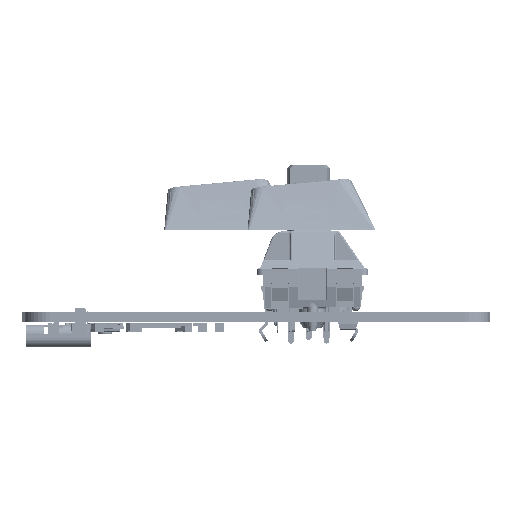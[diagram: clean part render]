
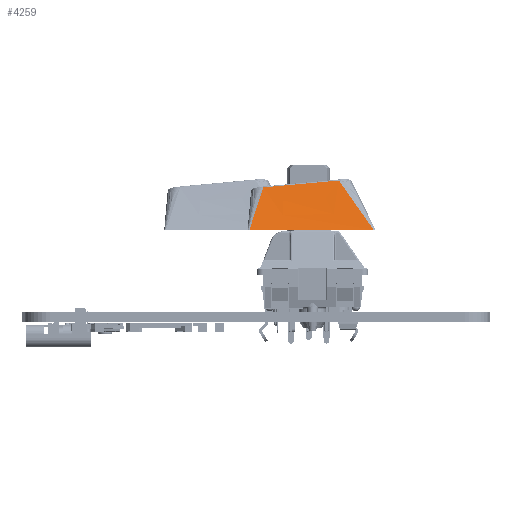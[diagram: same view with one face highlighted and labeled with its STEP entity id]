
A CAD part, left-side view. The second image highlights one B-rep face of the part: STEP entity #4259.
In plain terms, the highlighted free-form (B-spline) face has degree [3, 3] with [4, 4] control points.
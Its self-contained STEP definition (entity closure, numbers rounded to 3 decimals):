
#3462 = EDGE_CURVE('',#3463,#3465,#3467,.T.);
#3463 = VERTEX_POINT('',#3464);
#3464 = CARTESIAN_POINT('',(-0.25,139.158,0.));
#3465 = VERTEX_POINT('',#3466);
#3466 = CARTESIAN_POINT('',(-0.25,121.658,0.));
#3467 = LINE('',#3468,#3469);
#3468 = CARTESIAN_POINT('',(-0.25,121.658,0.)
  );
#3469 = VECTOR('',#3470,1.);
#3470 = DIRECTION('',(0.,-1.,0.));
#3902 = VERTEX_POINT('',#3903);
#3903 = CARTESIAN_POINT('',(2.673,126.557,6.955
    ));
#3972 = VERTEX_POINT('',#3973);
#3973 = CARTESIAN_POINT('',(2.664,137.198,5.987
    ));
#4030 = EDGE_CURVE('',#3972,#3902,#4031,.T.);
#4031 = B_SPLINE_CURVE_WITH_KNOTS('',3,(#4032,#4033,#4034,#4035,#4036,
    #4037,#4038,#4039,#4040,#4041),.UNSPECIFIED.,.F.,.F.,(4,1,1,1,1,1,1,
    4),(0.,0.763,1.526,3.053,
    4.579,7.632,9.159,10.685),
  .UNSPECIFIED.);
#4032 = CARTESIAN_POINT('',(2.664,137.198,
    5.987));
#4033 = CARTESIAN_POINT('',(2.664,136.944,6.01
    ));
#4034 = CARTESIAN_POINT('',(2.665,136.438,
    6.056));
#4035 = CARTESIAN_POINT('',(2.666,135.424,
    6.148));
#4036 = CARTESIAN_POINT('',(2.667,134.157,
    6.263));
#4037 = CARTESIAN_POINT('',(2.669,132.13,
    6.447));
#4038 = CARTESIAN_POINT('',(2.671,130.103,
    6.631));
#4039 = CARTESIAN_POINT('',(2.672,128.077,
    6.816));
#4040 = CARTESIAN_POINT('',(2.674,127.062,6.909
    ));
#4041 = CARTESIAN_POINT('',(2.673,126.557,6.955)
  );
#4112 = EDGE_CURVE('',#3972,#3463,#4113,.T.);
#4113 = LINE('',#4114,#4115);
#4114 = CARTESIAN_POINT('',(2.75,137.141,
    6.162));
#4115 = VECTOR('',#4116,1.);
#4116 = DIRECTION('',(-0.42,0.282,-0.863));
#4259 = ADVANCED_FACE('',(#4260),#4271,.F.);
#4260 = FACE_BOUND('',#4261,.F.);
#4261 = EDGE_LOOP('',(#4262,#4263,#4264,#4270));
#4262 = ORIENTED_EDGE('',*,*,#4112,.F.);
#4263 = ORIENTED_EDGE('',*,*,#4030,.T.);
#4264 = ORIENTED_EDGE('',*,*,#4265,.T.);
#4265 = EDGE_CURVE('',#3902,#3465,#4266,.T.);
#4266 = LINE('',#4267,#4268);
#4267 = CARTESIAN_POINT('',(2.75,126.686,
    7.138));
#4268 = VECTOR('',#4269,1.);
#4269 = DIRECTION('',(-0.325,-0.545,-0.773));
#4270 = ORIENTED_EDGE('',*,*,#3462,.F.);
#4271 = B_SPLINE_SURFACE_WITH_KNOTS('',3,3,(
    (#4272,#4273,#4274,#4275)
    ,(#4276,#4277,#4278,#4279)
    ,(#4280,#4281,#4282,#4283)
    ,(#4284,#4285,#4286,#4287
    )),.UNSPECIFIED.,.F.,.F.,.F.,(4,4),(4,4),(0.,1.),(0.026
    ,1.),.PIECEWISE_BEZIER_KNOTS.);
#4272 = CARTESIAN_POINT('',(2.673,137.192,6.005
    ));
#4273 = CARTESIAN_POINT('',(1.699,137.847,
    4.003));
#4274 = CARTESIAN_POINT('',(0.724,138.503,
    2.002));
#4275 = CARTESIAN_POINT('',(-0.25,139.158,0.)
  );
#4276 = CARTESIAN_POINT('',(2.673,136.3,6.088
    ));
#4277 = CARTESIAN_POINT('',(1.699,137.209,4.059
    ));
#4278 = CARTESIAN_POINT('',(0.724,138.118,
    2.029));
#4279 = CARTESIAN_POINT('',(-0.25,139.027,0.)
  );
#4280 = CARTESIAN_POINT('',(2.673,127.45,6.872
    ));
#4281 = CARTESIAN_POINT('',(1.699,125.563,
    4.582));
#4282 = CARTESIAN_POINT('',(0.724,123.676,
    2.291));
#4283 = CARTESIAN_POINT('',(-0.25,121.789,0.)
  );
#4284 = CARTESIAN_POINT('',(2.673,126.557,6.955
    ));
#4285 = CARTESIAN_POINT('',(1.699,124.924,
    4.637));
#4286 = CARTESIAN_POINT('',(0.724,123.291,2.318
    ));
#4287 = CARTESIAN_POINT('',(-0.25,121.658,0.)
  );
